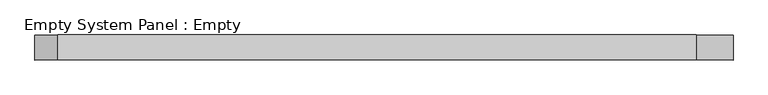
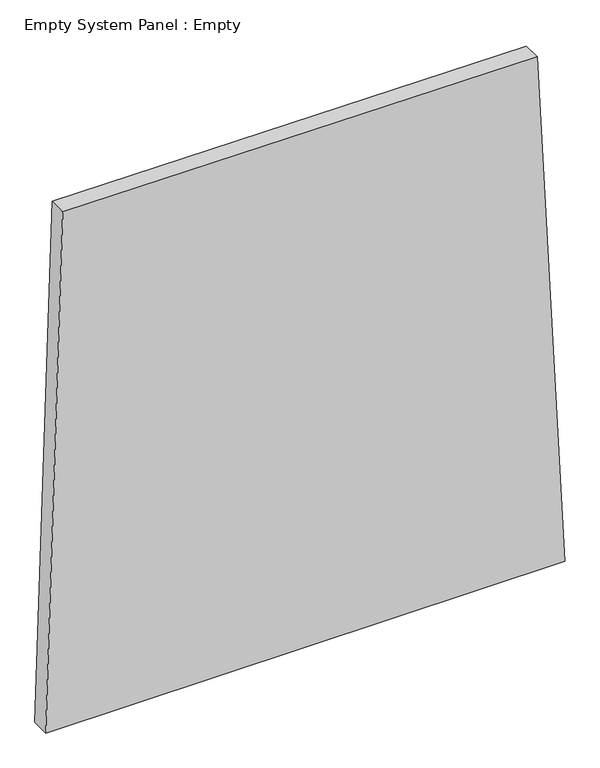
"""IFC4 building model written with IfcOpenShell, lengths in millimetres: plate geometry, Empty System Panel : Empty."""

from ifc_helpers import new_model, si_unit, frame, origin, place, context, project, spatial, polyline, outline, extrude, source, transform, mapped, element, save


def empty_system_panel_empty_72590227(model_context):
    return source(origin(), model_context, "Body", "SweptSolid", [
        extrude(outline(polyline([(0.0, -1417.5684768), (0.0, 1417.5684768), (2964.6083253, 1267.3786862), (2977.7380845, -1324.1412564), (0.0, -1417.5684768)])), frame((0.0, -50.8, 0.0), z_axis=(0.0, 1.0, 0.0), x_axis=(0.0, 0.0, 1.0)), (0.0, 0.0, 1.0), 101.6),
    ])


if __name__ == "__main__":
    model = new_model("IFC4")
    model_context = context("Model", 3, world=origin())
    ifc_project = project(units=[si_unit("LENGTHUNIT", "METRE", prefix="MILLI")], contexts=[model_context])
    site = spatial("IfcSite", under=ifc_project)
    building = spatial("IfcBuilding", under=site)
    placement = place(None, origin())
    empty_system_panel_empty_shape = empty_system_panel_empty_72590227(model_context)
    element("IfcPlate", 1, ObjectType="Empty System Panel : Empty", at=placement, inside=building, context=model_context, shape_type="MappedRepresentation", body=[
        mapped(empty_system_panel_empty_shape, transform((0.0, 0.0, 0.0), x_axis=(1.0, 0.0, 0.0), y_axis=(0.0, 1.0, 0.0), z_axis=(0.0, 0.0, 1.0))),
    ])
    save(model, "model.ifc")
